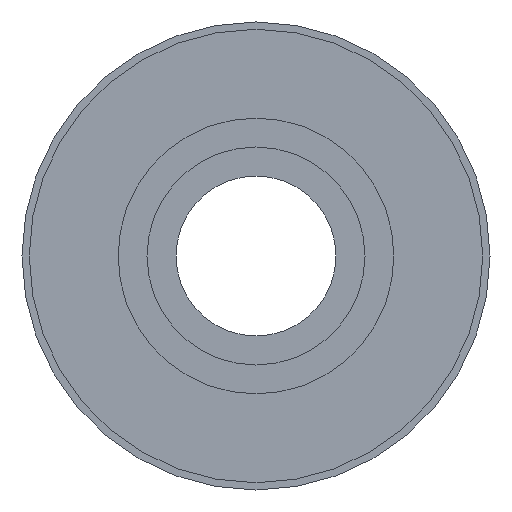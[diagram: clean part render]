
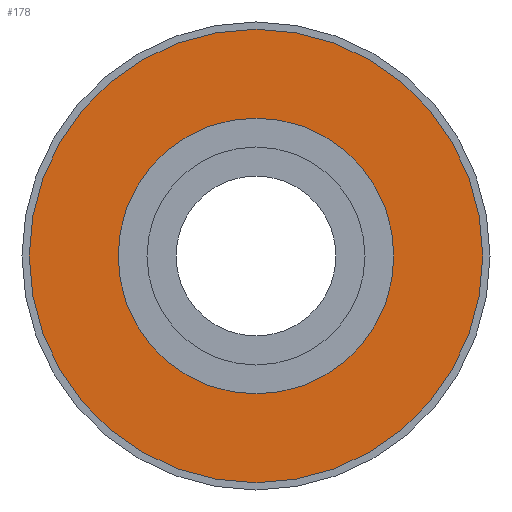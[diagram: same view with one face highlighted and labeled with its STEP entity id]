
A CAD part, left-side view. The second image highlights one B-rep face of the part: STEP entity #178.
In plain terms, the highlighted planar face has unit normal (-1, 0, 0).
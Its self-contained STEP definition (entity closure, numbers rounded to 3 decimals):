
#1 = CIRCLE ( 'NONE', #2344, 15.6 ) ;
#82 = ORIENTED_EDGE ( 'NONE', *, *, #233, .T. ) ;
#103 = EDGE_CURVE ( 'NONE', #1008, #1455, #1806, .T. ) ;
#178 = ADVANCED_FACE ( 'NONE', ( #1074, #1015 ), #1180, .F. ) ;
#233 = EDGE_CURVE ( 'NONE', #2188, #1276, #1997, .T. ) ;
#291 = CARTESIAN_POINT ( 'NONE',  ( 0., 0., -15.6 ) ) ;
#407 = CARTESIAN_POINT ( 'NONE',  ( 0., 0., -9.487 ) ) ;
#525 = CARTESIAN_POINT ( 'NONE',  ( 0., 0., 0. ) ) ;
#676 = ORIENTED_EDGE ( 'NONE', *, *, #875, .F. ) ;
#732 = CARTESIAN_POINT ( 'NONE',  ( 0., 0., 0. ) ) ;
#854 = ORIENTED_EDGE ( 'NONE', *, *, #103, .F. ) ;
#875 = EDGE_CURVE ( 'NONE', #1455, #1008, #1181, .T. ) ;
#878 = DIRECTION ( 'NONE',  ( 0., 0., 1. ) ) ;
#1008 = VERTEX_POINT ( 'NONE', #407 ) ;
#1015 = FACE_OUTER_BOUND ( 'NONE', #1343, .T. ) ;
#1074 = FACE_BOUND ( 'NONE', #2880, .T. ) ;
#1165 = DIRECTION ( 'NONE',  ( -1., 0., 0. ) ) ;
#1180 = PLANE ( 'NONE',  #1296 ) ;
#1181 = CIRCLE ( 'NONE', #1261, 9.487 ) ;
#1192 = CARTESIAN_POINT ( 'NONE',  ( 0., 0., 9.487 ) ) ;
#1261 = AXIS2_PLACEMENT_3D ( 'NONE', #1415, #1519, #878 ) ;
#1265 = DIRECTION ( 'NONE',  ( -1., 0., 0. ) ) ;
#1276 = VERTEX_POINT ( 'NONE', #291 ) ;
#1296 = AXIS2_PLACEMENT_3D ( 'NONE', #2005, #1498, #2696 ) ;
#1342 = DIRECTION ( 'NONE',  ( 0., 0., 1. ) ) ;
#1343 = EDGE_LOOP ( 'NONE', ( #82, #2244 ) ) ;
#1415 = CARTESIAN_POINT ( 'NONE',  ( 0., 0., 0. ) ) ;
#1455 = VERTEX_POINT ( 'NONE', #1192 ) ;
#1498 = DIRECTION ( 'NONE',  ( 1., 0., 0. ) ) ;
#1519 = DIRECTION ( 'NONE',  ( -1., 0., 0. ) ) ;
#1804 = AXIS2_PLACEMENT_3D ( 'NONE', #732, #2235, #1342 ) ;
#1806 = CIRCLE ( 'NONE', #3147, 9.487 ) ;
#1808 = DIRECTION ( 'NONE',  ( 0., 0., 1. ) ) ;
#1953 = CARTESIAN_POINT ( 'NONE',  ( 0., 0., 15.6 ) ) ;
#1997 = CIRCLE ( 'NONE', #1804, 15.6 ) ;
#2005 = CARTESIAN_POINT ( 'NONE',  ( 0., 8.5, 0. ) ) ;
#2188 = VERTEX_POINT ( 'NONE', #1953 ) ;
#2235 = DIRECTION ( 'NONE',  ( -1., 0., 0. ) ) ;
#2244 = ORIENTED_EDGE ( 'NONE', *, *, #3084, .T. ) ;
#2344 = AXIS2_PLACEMENT_3D ( 'NONE', #2869, #1165, #3105 ) ;
#2696 = DIRECTION ( 'NONE',  ( 0., 0., -1. ) ) ;
#2869 = CARTESIAN_POINT ( 'NONE',  ( 0., 0., 0. ) ) ;
#2880 = EDGE_LOOP ( 'NONE', ( #676, #854 ) ) ;
#3084 = EDGE_CURVE ( 'NONE', #1276, #2188, #1, .T. ) ;
#3105 = DIRECTION ( 'NONE',  ( 0., 0., 1. ) ) ;
#3147 = AXIS2_PLACEMENT_3D ( 'NONE', #525, #1265, #1808 ) ;
